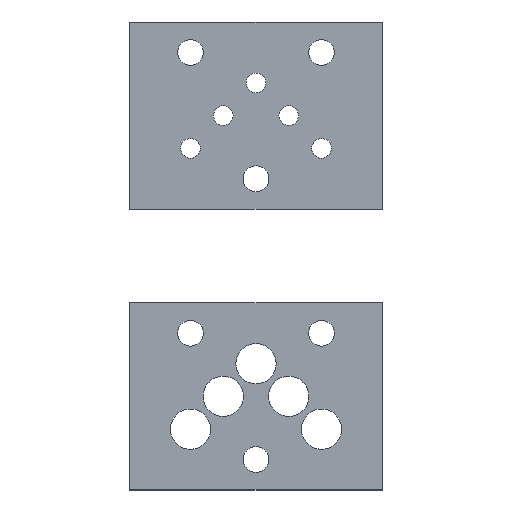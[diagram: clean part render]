
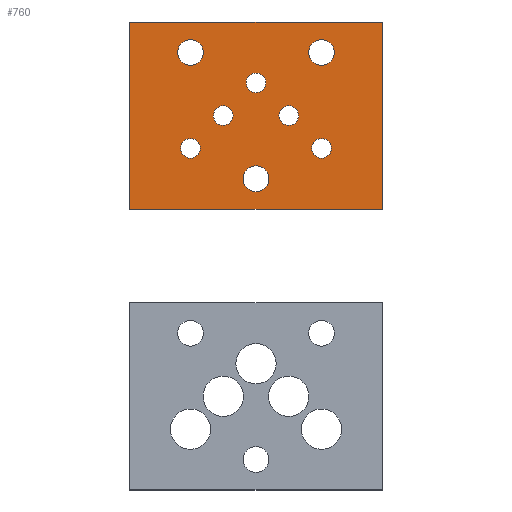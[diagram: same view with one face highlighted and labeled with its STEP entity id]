
A CAD part, top view. The second image highlights one B-rep face of the part: STEP entity #760.
In plain terms, the highlighted planar face has unit normal (0, 0, 1).
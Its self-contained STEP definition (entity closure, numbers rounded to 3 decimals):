
#760=ADVANCED_FACE('', (#770,#780,#790,#800,#810,#820,#830,#840,#850), 
#860, .T.);
#2950=AXIS2_PLACEMENT_3D('Ax2Pl3d', #2960, #2970, #2980);
#2990=AXIS2_PLACEMENT_3D('Ax2Pl3d', #3000, #3010, #3020);
#3030=AXIS2_PLACEMENT_3D('Ax2Pl3d', #3040, #3050, #3060);
#3070=AXIS2_PLACEMENT_3D('Ax2Pl3d', #3080, #3090, #3100);
#3110=AXIS2_PLACEMENT_3D('Ax2Pl3d', #3120, #3130, #3140);
#3150=AXIS2_PLACEMENT_3D('Ax2Pl3d', #3160, #3170, #3180);
#3190=AXIS2_PLACEMENT_3D('Ax2Pl3d', #3200, #3210, #3220);
#3230=AXIS2_PLACEMENT_3D('Ax2Pl3d', #3240, #3250, #3260);
#3270=AXIS2_PLACEMENT_3D('Ax2Pl3d', #3280, #3290, #3300);
#2960=CARTESIAN_POINT('HicPkt', (0.,100.,
7.5));
#4580=CARTESIAN_POINT('', (0.,60.,
7.5));
#4590=CARTESIAN_POINT('', (0.,100.,
7.5));
#4600=CARTESIAN_POINT('', (0.,60.,
7.5));
#4610=CARTESIAN_POINT('', (54.,60.,7.5));
#4620=CARTESIAN_POINT('', (54.,60.,7.5));
#4630=CARTESIAN_POINT('', (54.,100.,7.5));
#4640=CARTESIAN_POINT('', (54.,100.,7.5));
#4650=CARTESIAN_POINT('', (0.,100.,
7.5));
#3000=CARTESIAN_POINT('HicPkt', (41.,73.,7.5));
#4660=CARTESIAN_POINT('', (41.,75.1,7.5));
#3040=CARTESIAN_POINT('HicPkt', (13.,73.,7.5));
#4670=CARTESIAN_POINT('', (13.,75.1,7.5));
#3080=CARTESIAN_POINT('HicPkt', (27.,87.,7.5));
#4680=CARTESIAN_POINT('', (27.,89.1,7.5));
#3120=CARTESIAN_POINT('HicPkt', (34.,80.,7.5));
#4690=CARTESIAN_POINT('', (34.,82.1,7.5));
#3160=CARTESIAN_POINT('HicPkt', (20.,80.,7.5));
#4700=CARTESIAN_POINT('', (20.,82.1,7.5));
#3200=CARTESIAN_POINT('HicPkt', (27.,66.5,7.5));
#4710=CARTESIAN_POINT('', (27.,69.25,7.5));
#3240=CARTESIAN_POINT('HicPkt', (13.,93.5,7.5));
#4720=CARTESIAN_POINT('', (13.,96.25,7.5));
#3280=CARTESIAN_POINT('HicPkt', (41.,93.5,7.5));
#4730=CARTESIAN_POINT('', (41.,96.25,7.5));
#5100=CIRCLE('Circle', #2990, 2.1);
#5110=CIRCLE('Circle', #3030, 2.1);
#5120=CIRCLE('Circle', #3070, 2.1);
#5130=CIRCLE('Circle', #3110, 2.1);
#5140=CIRCLE('Circle', #3150, 2.1);
#5150=CIRCLE('Circle', #3190, 2.75);
#5160=CIRCLE('Circle', #3230, 2.75);
#5170=CIRCLE('Circle', #3270, 2.75);
#2970=DIRECTION('Axis', (0.,0.,1.));
#2980=DIRECTION('RefDirection', (1.,0.,0.));
#5520=DIRECTION('', (0.,-1.,0.));
#5530=DIRECTION('', (1.,0.,0.));
#5540=DIRECTION('', (0.,1.,0.));
#5550=DIRECTION('', (-1.,0.,0.));
#3010=DIRECTION('Axis', (0.,0.,1.));
#3020=DIRECTION('RefDirection', (1.,0.,0.));
#3050=DIRECTION('Axis', (0.,0.,1.));
#3060=DIRECTION('RefDirection', (1.,0.,0.));
#3090=DIRECTION('Axis', (0.,0.,1.));
#3100=DIRECTION('RefDirection', (1.,0.,0.));
#3130=DIRECTION('Axis', (0.,0.,1.));
#3140=DIRECTION('RefDirection', (1.,0.,0.));
#3170=DIRECTION('Axis', (0.,0.,1.));
#3180=DIRECTION('RefDirection', (1.,0.,0.));
#3210=DIRECTION('Axis', (0.,0.,1.));
#3220=DIRECTION('RefDirection', (1.,0.,0.));
#3250=DIRECTION('Axis', (0.,0.,1.));
#3260=DIRECTION('RefDirection', (1.,0.,0.));
#3290=DIRECTION('Axis', (0.,0.,1.));
#3300=DIRECTION('RefDirection', (1.,0.,0.));
#6280=EDGE_CURVE('', #6290, #6300, #6310, .T.);
#6320=EDGE_CURVE('', #6300, #6330, #6340, .T.);
#6350=EDGE_CURVE('', #6330, #6360, #6370, .T.);
#6380=EDGE_CURVE('', #6360, #6290, #6390, .T.);
#6400=EDGE_CURVE('', #6410, #6410, #5100, .T.);
#6420=EDGE_CURVE('', #6430, #6430, #5110, .T.);
#6440=EDGE_CURVE('', #6450, #6450, #5120, .T.);
#6460=EDGE_CURVE('', #6470, #6470, #5130, .T.);
#6480=EDGE_CURVE('', #6490, #6490, #5140, .T.);
#6500=EDGE_CURVE('', #6510, #6510, #5150, .T.);
#6520=EDGE_CURVE('', #6530, #6530, #5160, .T.);
#6540=EDGE_CURVE('', #6550, #6550, #5170, .T.);
#7860=EDGE_LOOP('Edge_loop', (#7870,#7880,#7890,#7900));
#7910=EDGE_LOOP('Edge_loop', (#7920));
#7930=EDGE_LOOP('Edge_loop', (#7940));
#7950=EDGE_LOOP('Edge_loop', (#7960));
#7970=EDGE_LOOP('Edge_loop', (#7980));
#7990=EDGE_LOOP('Edge_loop', (#8000));
#8010=EDGE_LOOP('Edge_loop', (#8020));
#8030=EDGE_LOOP('Edge_loop', (#8040));
#8050=EDGE_LOOP('Edge_loop', (#8060));
#780=FACE_BOUND('', #7910, .T.);
#790=FACE_BOUND('', #7930, .T.);
#800=FACE_BOUND('', #7950, .T.);
#810=FACE_BOUND('', #7970, .T.);
#820=FACE_BOUND('', #7990, .T.);
#830=FACE_BOUND('', #8010, .T.);
#840=FACE_BOUND('', #8030, .T.);
#850=FACE_BOUND('', #8050, .T.);
#770=FACE_OUTER_BOUND('Face_outer_bound', #7860, .T.);
#6310=LINE('Line', #4580, #9290);
#6340=LINE('Line', #4610, #9300);
#6370=LINE('Line', #4630, #9310);
#6390=LINE('Line', #4650, #9320);
#7870=ORIENTED_EDGE('', *, *, #6280, .T.);
#7880=ORIENTED_EDGE('', *, *, #6320, .T.);
#7890=ORIENTED_EDGE('', *, *, #6350, .T.);
#7900=ORIENTED_EDGE('', *, *, #6380, .T.);
#7920=ORIENTED_EDGE('', *, *, #6400, .F.);
#7940=ORIENTED_EDGE('', *, *, #6420, .F.);
#7960=ORIENTED_EDGE('', *, *, #6440, .F.);
#7980=ORIENTED_EDGE('', *, *, #6460, .F.);
#8000=ORIENTED_EDGE('', *, *, #6480, .F.);
#8020=ORIENTED_EDGE('', *, *, #6500, .F.);
#8040=ORIENTED_EDGE('', *, *, #6520, .F.);
#8060=ORIENTED_EDGE('', *, *, #6540, .F.);
#860=PLANE('Plane', #2950);
#9290=VECTOR('', #5520, 40.);
#9300=VECTOR('', #5530, 54.);
#9310=VECTOR('', #5540, 40.);
#9320=VECTOR('', #5550, 54.);
#6290=VERTEX_POINT('', #4590);
#6300=VERTEX_POINT('', #4600);
#6330=VERTEX_POINT('', #4620);
#6360=VERTEX_POINT('', #4640);
#6410=VERTEX_POINT('', #4660);
#6430=VERTEX_POINT('', #4670);
#6450=VERTEX_POINT('', #4680);
#6470=VERTEX_POINT('', #4690);
#6490=VERTEX_POINT('', #4700);
#6510=VERTEX_POINT('', #4710);
#6530=VERTEX_POINT('', #4720);
#6550=VERTEX_POINT('', #4730);
